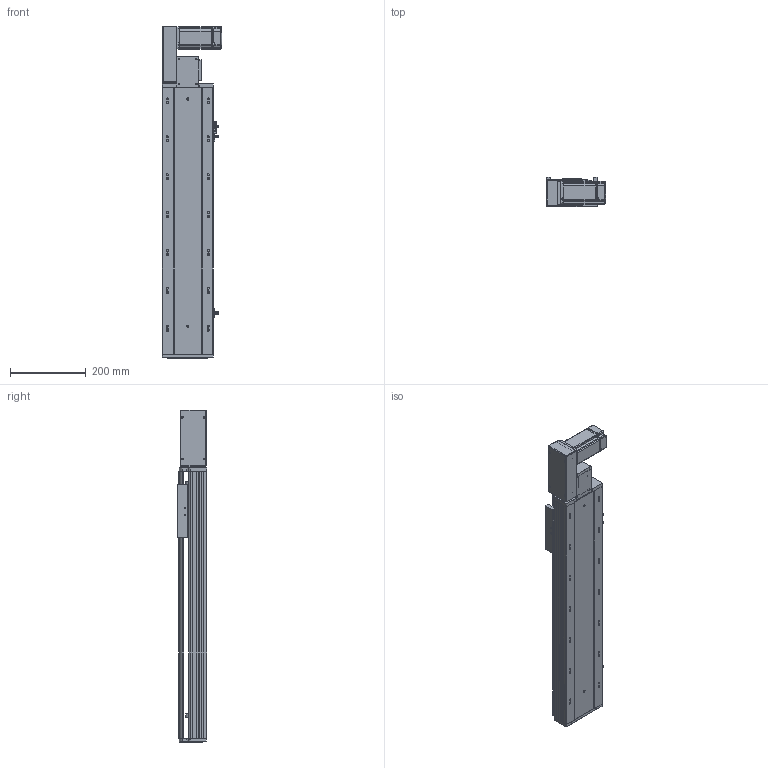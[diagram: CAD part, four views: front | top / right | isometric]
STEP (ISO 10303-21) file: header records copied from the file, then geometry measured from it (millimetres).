
FILE_DESCRIPTION (( 'STEP AP203' ), '1' );
FILE_NAME ('RY140-T-300-LK.SLDASM_450.step', '2021-03-01T06:34:47', ( '盈信电脑' ), ( '东莞市道滘镇水果街19号' ), 'SwSTEP 2.0', 'SolidWorks 2012', '' );
FILE_SCHEMA (( 'CONFIG_CONTROL_DESIGN' ));
Length unit declared in the file: millimetre
Products named in the file (18): RY140-T-300-DL倰第菁釱_450; RY140肮祭謫臏賑輸; RY140-T-300-DL倰第奻裔啣_450; RY140綴裔啣; RY140-T翋肮謫裔啣; 滅袉蝶18-10; RY140-T-300-LK.SLDASM_450; RY120-T蹟翐M4; RY140-T萇儂欶; RY120-T主同步轮轴承压盖; RY140-T翋肮祭謫盓傅釱; RY140-T萇儂假蚾啣; 侂狟400W侜督萇儂; 15; RY120-T肮祭湍揤踡輸2; 覜茼ん672; RY120外置感应片(140共用）; RY120-T肮祭湍揤踡輸1
Assembly tree (23 placements, depth 3):
  RY140-T-300-LK.SLDASM_450
    RY140-T-300-DL倰第菁釱_450
    RY140肮祭謫臏賑輸
    RY140-T-300-DL倰第奻裔啣_450
    RY140綴裔啣
    覜茼ん672  x3
    RY120外置感应片(140共用）
    RY120-T肮祭湍揤踡輸2
    RY120-T肮祭湍揤踡輸1
    RY140-T翋肮祭謫盓傅釱
    RY140-T萇儂假蚾啣
    侂狟400W侜督萇儂
      15
    RY120-T主同步轮轴承压盖
    RY120-T蹟翐M4  x4
    RY140-T萇儂欶
    滅袉蝶18-10  x2
    RY140-T翋肮謫裔啣
Bounding box: 157 x 78 x 876.5 mm (x, y, z)
Volume: 2678483.2 mm3; surface area: 987666 mm2
Topology: 22 solids, 22 shells, 2591 faces, 7097 edges, 4578 vertices
Faces by surface type: plane 1381, cylinder 928, cone 182, bspline 100
Entity records: 82197 total; most frequent: CARTESIAN_POINT 20177, ORIENTED_EDGE 12754, DIRECTION 12057, EDGE_CURVE 6377, VERTEX_POINT 4177, VECTOR 4121, LINE 4121, AXIS2_PLACEMENT_3D 3968
